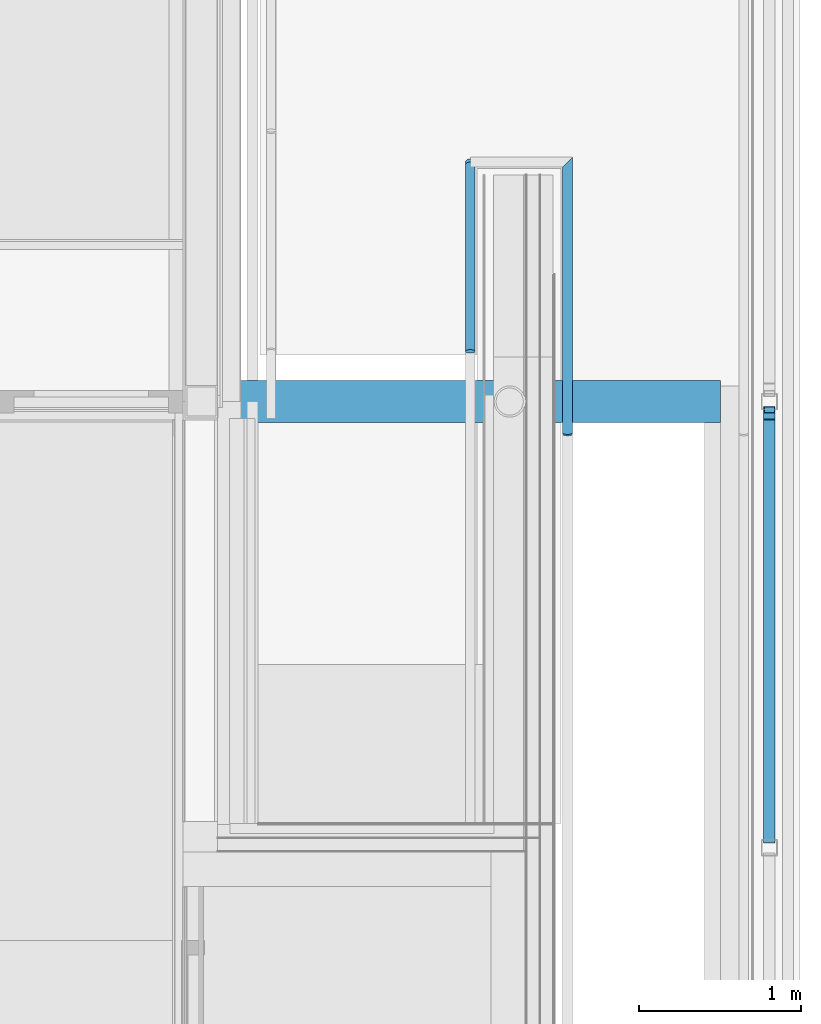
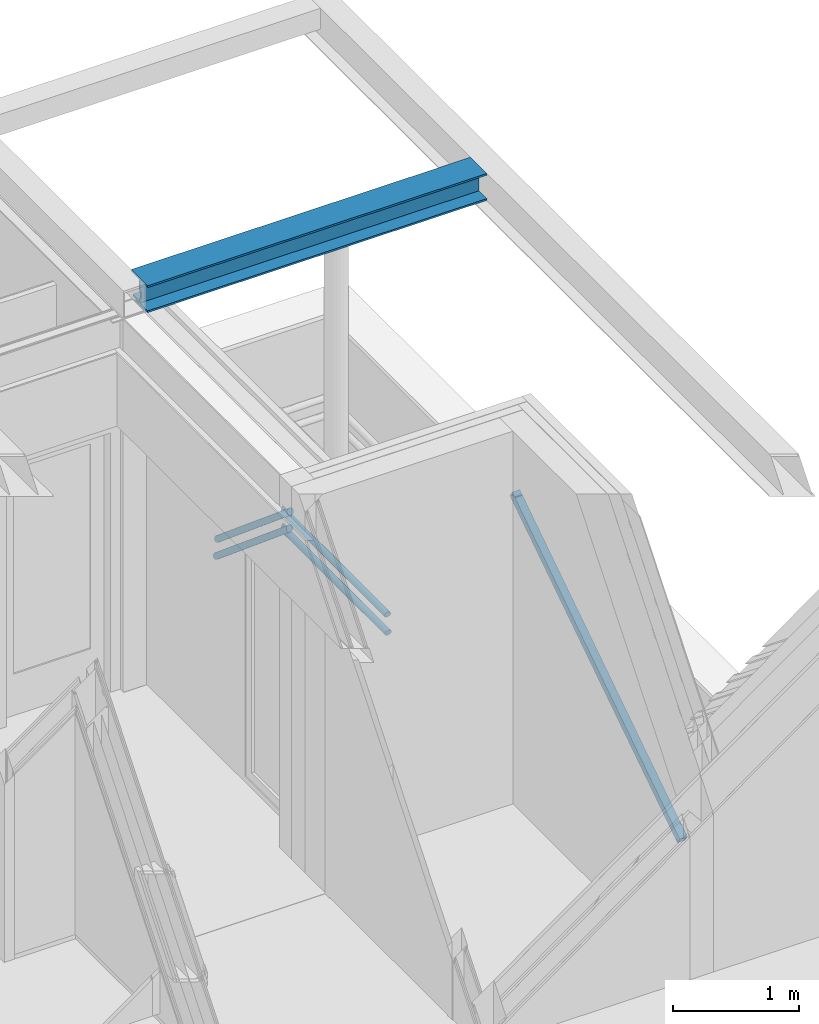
# One storey, part 25 of 137: 4 members, 2 beams, 1 element without a shape of its own.
"""IFC2X3 building model written with IfcOpenShell, lengths in millimetres."""

from ifc_helpers import new_model, entity, si_unit, converted_unit, derived_unit, money_unit, direction, frame, origin_with_axes, place, context, subcontext, project, spatial, faceted_brep, material, type_object, element, aggregate, save


model = new_model("IFC2X3")

# Units and contexts
model_context = context("Model", 3, precision=0.01, world=origin_with_axes(), true_north=direction((0.0, 1.0)))
body_context = subcontext(model_context, "Body", "Model", "MODEL_VIEW")
ifc_project = project(units=[si_unit("LENGTHUNIT", "METRE", prefix="MILLI"), si_unit("AREAUNIT", "SQUARE_METRE"), si_unit("VOLUMEUNIT", "CUBIC_METRE"), converted_unit("PLANEANGLEUNIT", "DEGREE", entity("IfcPlaneAngleMeasure", 0.0174532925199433), si_unit("PLANEANGLEUNIT", "RADIAN"), dimensions=[0, 0, 0, 0, 0, 0, 0]), money_unit("EUR"), converted_unit("TIMEUNIT", "Year", entity("IfcTimeMeasure", 31556926.0), si_unit("TIMEUNIT", "SECOND"), dimensions=[0, 0, 1, 0, 0, 0, 0]), si_unit("MASSUNIT", "GRAM", prefix="KILO"), si_unit("THERMODYNAMICTEMPERATUREUNIT", "DEGREE_CELSIUS"), si_unit("LUMINOUSINTENSITYUNIT", "LUMEN"), si_unit("ENERGYUNIT", "JOULE", prefix="MEGA"), derived_unit("THERMALCONDUCTANCEUNIT", [(si_unit("POWERUNIT", "WATT"), 1), (si_unit("LENGTHUNIT", "METRE"), -1), (si_unit("THERMODYNAMICTEMPERATUREUNIT", "KELVIN"), -1)]), derived_unit("SPECIFICHEATCAPACITYUNIT", [(si_unit("ENERGYUNIT", "JOULE"), 1), (si_unit("MASSUNIT", "GRAM", prefix="KILO"), -1), (si_unit("THERMODYNAMICTEMPERATUREUNIT", "KELVIN"), -1)]), derived_unit("MASSDENSITYUNIT", [(si_unit("MASSUNIT", "GRAM", prefix="KILO"), 1), (si_unit("VOLUMEUNIT", "CUBIC_METRE"), -1)])], contexts=[model_context])

# Site, building, storey
site_placement = place(None, origin_with_axes())
site = spatial("IfcSite", under=ifc_project, at=site_placement, Name="Site", CompositionType="ELEMENT")
building_placement = place(site_placement, origin_with_axes())
building = spatial("IfcBuilding", under=site, at=building_placement, Name="Naam gebouw", CompositionType="ELEMENT")
storey_placement = place(building_placement, frame((0.0, 0.0, 3960.0), z_axis=(0.0, 0.0, 1.0), x_axis=(1.0, 0.0, 0.0)))
storey = spatial("IfcBuildingStorey", under=building, at=storey_placement, Name="1e verdieping", CompositionType="ELEMENT", Elevation=3960.0)

# Beam
ifc_material_1 = material(Name="Metaal - Staal C")
beam_type_1 = type_object("IfcBeamType", Name="HEB260 260 x 260", PredefinedType="BEAM")
beam_1_placement = place(storey_placement, frame((29698.99999955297, 22324.99984707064, 3730.0), z_axis=(0.0, 0.0, 1.0), x_axis=(0.0, 1.0, 0.0)))
element("IfcBeam", 1, at=beam_1_placement, inside=storey, type_object=beam_type_1, material=ifc_material_1, Name="h METAAL_Regenwaterafvoer-x", ObjectType="BEAM", context=body_context, shape_type="Brep", body=[
    faceted_brep([(4.999999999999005, 3097.999999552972, -112.4999999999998), (4.999999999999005, 3097.999999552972, -78.405588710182), (4.999999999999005, 3083.999999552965, -78.405588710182), (4.999999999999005, 3083.999999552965, 6.742424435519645), (4.999999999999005, 3097.999999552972, 6.742424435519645), (4.999999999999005, 3097.999999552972, 112.4999999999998), (4.999999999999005, 0.0, 112.4999999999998), (4.999999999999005, 0.0, -112.4999999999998), (50.9757983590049, 3097.999999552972, -112.4999999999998), (74.57428388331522, 3097.999999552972, -129.9999999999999), (-129.999999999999, 3097.999999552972, -129.9999999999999), (-129.999999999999, 3097.999999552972, -112.4999999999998), (-4.999999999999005, 3097.999999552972, -112.4999999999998), (-4.999999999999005, 3097.999999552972, -70.98985858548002), (-4.999999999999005, 3083.999999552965, -70.98985858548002), (-4.999999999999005, 3083.999999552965, -6.742424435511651), (-4.999999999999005, 3097.999999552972, -6.742424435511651), (-4.999999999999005, 3097.999999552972, 112.4999999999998), (-129.999999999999, 3097.999999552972, 112.4999999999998), (-129.999999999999, 3097.999999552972, 129.9999999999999), (129.999999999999, 3097.999999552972, 129.9999999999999), (129.999999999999, 3097.999999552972, 112.4999999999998), (129.999999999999, 0.0, 112.4999999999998), (129.999999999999, 0.0, 129.9999999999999), (-129.999999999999, 0.0, 129.9999999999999), (-129.999999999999, 0.0, 112.4999999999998), (-4.999999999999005, 0.0, 112.4999999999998), (-4.999999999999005, 0.0, -112.4999999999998), (-129.999999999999, 0.0, -112.4999999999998), (-129.999999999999, 0.0, -129.9999999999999), (129.999999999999, 0.0, -129.9999999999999), (129.999999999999, 0.0, -112.4999999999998), (129.999999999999, 3083.999999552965, -112.4999999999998), (50.9757983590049, 3083.999999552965, -112.4999999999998), (74.57428388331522, 3083.999999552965, -129.9999999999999), (129.999999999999, 3083.999999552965, -129.9999999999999)], [[[0, 1, 2, 3, 4, 5, 6, 7]], [[0, 8, 9, 10, 11, 12, 13, 1]], [[14, 2, 1, 13]], [[15, 3, 2, 14]], [[16, 4, 3, 15]], [[5, 4, 16, 17, 18, 19, 20, 21]], [[22, 6, 5, 21]], [[22, 23, 24, 25, 26, 27, 28, 29, 30, 31, 7, 6]], [[32, 33, 8, 0, 7, 31]], [[33, 34, 9, 8]], [[9, 34, 35, 30, 29, 10]], [[29, 28, 11, 10]], [[28, 27, 12, 11]], [[15, 14, 13, 12, 27, 26, 17, 16]], [[26, 25, 18, 17]], [[25, 24, 19, 18]], [[24, 23, 20, 19]], [[23, 22, 21, 20]], [[30, 35, 32, 31]], [[34, 33, 32, 35]]]),
])

# Railing, members
railing_type = type_object("IfcRailingType", Name="Railing Type", PredefinedType="NOTDEFINED")
railing_placement = place(storey_placement, frame((28276.00002397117, 22221.00039272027, -3419.999916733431), z_axis=(0.0, 0.0, 1.0), x_axis=(1.0, 0.0, 0.0)))
railing = element("IfcRailing", 2, at=railing_placement, inside=storey, type_object=railing_type, Name="34_Reling-x", PredefinedType="NOTDEFINED")
ifc_material_2 = material(Name="Metaal - RVS")
member_type = type_object("IfcMemberType", Name="IfcMember", PredefinedType="USERDEFINED")
member_1_placement = place(railing_placement, frame((-119.0000000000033, 1001.975814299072, 3286.003442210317), z_axis=(0.0, 0.0, 1.0), x_axis=(1.0, 0.0, 0.0)))
member_1 = element("IfcMember", 3, at=member_1_placement, type_object=member_type, material=ifc_material_2, Name="h3 Staal legeringen_", context=body_context, shape_type="Brep", body=[
    faceted_brep([(-30.00000000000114, -588.8924830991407, 1003.996537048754), (-29.54423259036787, -587.0010238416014, 1009.205982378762), (-29.54423259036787, 562.0947378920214, 48.06641071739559), (-30.00000000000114, 558.7524322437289, 44.07049860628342), (-29.54423259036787, -590.7839423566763, 998.7870917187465), (-28.19077862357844, -592.6179305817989, 993.7359327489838), (-25.98076211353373, -594.3387229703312, 988.9965370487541), (-22.98133329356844, -595.8940341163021, 984.7129087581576), (-19.28362829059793, -597.2366066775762, 981.0152037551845), (-15.00000000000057, -598.3256472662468, 978.015774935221), (-10.26060429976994, -599.1280659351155, 975.8057584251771), (-5.209445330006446, -599.619481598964, 974.4523044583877), (0.0, -599.7849628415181, 973.9965370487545), (5.209445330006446, -599.619481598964, 974.4523044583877), (10.26060429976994, -599.1280659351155, 975.8057584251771), (15.00000000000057, -598.3256472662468, 978.015774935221), (19.28362829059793, -597.2366066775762, 981.0152037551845), (22.98133329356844, -595.8940341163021, 984.7129087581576), (25.98076211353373, -594.3387229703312, 988.9965370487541), (28.19077862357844, -592.6179305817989, 993.7359327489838), (29.54423259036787, -590.7839423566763, 998.7870917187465), (30.00000000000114, -588.8924830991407, 1003.996537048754), (29.54423259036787, -587.0010238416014, 1009.205982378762), (28.19077862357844, -585.1670356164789, 1014.257141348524), (25.98076211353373, -583.4462432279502, 1018.996537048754), (22.98133329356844, -581.8909320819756, 1023.28016533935), (19.28362829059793, -580.548359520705, 1026.977870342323), (15.00000000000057, -579.459318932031, 1029.977299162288), (10.26060429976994, -578.6569002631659, 1032.187315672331), (5.209445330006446, -578.1654845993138, 1033.54076963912), (0.0, -578.0000033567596, 1033.996537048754), (-5.209445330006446, -578.1654845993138, 1033.54076963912), (-10.26060429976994, -578.6569002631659, 1032.187315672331), (-15.00000000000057, -579.459318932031, 1029.977299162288), (-19.28362829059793, -580.548359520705, 1026.977870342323), (-22.98133329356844, -581.8909320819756, 1023.28016533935), (-25.98076211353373, -583.4462432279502, 1018.996537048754), (-28.19077862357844, -585.1670356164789, 1014.257141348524), (-28.19077862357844, 565.3354892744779, 51.94090906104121), (-25.98076211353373, 568.3762178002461, 55.5762689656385), (-22.98133329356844, 571.124532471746, 58.86203186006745), (-19.28362829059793, 573.4969271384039, 61.69836150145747), (-15.00000000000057, 575.4213177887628, 63.99907744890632), (-10.26060429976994, 576.8392327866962, 65.69427361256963), (-5.209445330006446, 577.707589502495, 66.73244231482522), (0.0, 578.0000033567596, 67.08203932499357), (5.209445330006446, 577.707589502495, 66.73244231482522), (10.26060429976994, 576.8392327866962, 65.69427361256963), (15.00000000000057, 575.4213177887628, 63.99907744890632), (19.28362829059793, 573.4969271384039, 61.69836150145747), (22.98133329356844, 571.124532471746, 58.86203186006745), (25.98076211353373, 568.3762178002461, 55.5762689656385), (28.19077862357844, 565.3354892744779, 51.94090906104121), (29.54423259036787, 562.0947378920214, 48.06641071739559), (30.00000000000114, 558.7524322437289, 44.07049860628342), (29.54423259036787, 555.4101265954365, 40.07458649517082), (28.19077862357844, 552.16937521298, 36.20008815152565), (25.98076211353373, 549.1286466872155, 32.56472824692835), (22.98133329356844, 546.3803320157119, 29.27896535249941), (19.28362829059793, 544.007937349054, 26.44263571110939), (15.00000000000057, 542.0835466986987, 24.14191976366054), (10.26060429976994, 540.6656317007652, 22.44672359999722), (5.209445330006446, 539.7972749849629, 21.40855489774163), (0.0, 539.5048611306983, 21.05895788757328), (-5.209445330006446, 539.7972749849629, 21.40855489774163), (-10.26060429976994, 540.6656317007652, 22.44672359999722), (-15.00000000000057, 542.0835466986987, 24.14191976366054), (-19.28362829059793, 544.007937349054, 26.44263571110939), (-22.98133329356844, 546.3803320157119, 29.27896535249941), (-25.98076211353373, 549.1286466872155, 32.56472824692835), (-28.19077862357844, 552.16937521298, 36.20008815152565), (-29.54423259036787, 555.4101265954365, 40.07458649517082)], [[[0, 1, 2, 3]], [[0, 4, 5, 6, 7, 8, 9, 10, 11, 12, 13, 14, 15, 16, 17, 18, 19, 20, 21, 22, 23, 24, 25, 26, 27, 28, 29, 30, 31, 32, 33, 34, 35, 36, 37, 1]], [[1, 37, 38, 2]], [[3, 2, 38, 39, 40, 41, 42, 43, 44, 45, 46, 47, 48, 49, 50, 51, 52, 53, 54, 55, 56, 57, 58, 59, 60, 61, 62, 63, 64, 65, 66, 67, 68, 69, 70, 71]], [[4, 0, 3, 71]], [[5, 4, 71, 70]], [[6, 5, 70, 69]], [[7, 6, 69, 68]], [[8, 7, 68, 67]], [[9, 8, 67, 66]], [[10, 9, 66, 65]], [[11, 10, 65, 64]], [[12, 11, 64, 63]], [[13, 12, 63, 62]], [[14, 13, 62, 61]], [[15, 14, 61, 60]], [[16, 15, 60, 59]], [[17, 16, 59, 58]], [[18, 17, 58, 57]], [[19, 18, 57, 56]], [[20, 19, 56, 55]], [[21, 20, 55, 54]], [[22, 21, 54, 53]], [[23, 22, 53, 52]], [[24, 23, 52, 51]], [[25, 24, 51, 50]], [[26, 25, 50, 49]], [[27, 26, 49, 48]], [[28, 27, 48, 47]], [[29, 28, 47, 46]], [[30, 29, 46, 45]], [[31, 30, 45, 44]], [[32, 31, 44, 43]], [[33, 32, 43, 42]], [[34, 33, 42, 41]], [[35, 34, 41, 40]], [[36, 35, 40, 39]], [[37, 36, 39, 38]]]),
])
member_2_placement = place(railing_placement, frame((-119.0000000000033, 1001.975814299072, 3110.659074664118), z_axis=(0.0, 0.0, 1.0), x_axis=(1.0, 0.0, 0.0)))
member_2 = element("IfcMember", 4, at=member_2_placement, type_object=member_type, material=ifc_material_2, Name="h3 Staal legeringen_Regel-x", context=body_context, shape_type="Brep", body=[
    faceted_brep([(-30.00000000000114, -578.0000033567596, 1009.340904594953), (-29.54423259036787, -576.1085440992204, 1014.550349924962), (-29.54423259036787, 581.342309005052, 46.4223189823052), (-30.00000000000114, 578.0000033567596, 42.42640687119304), (-29.54423259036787, -579.8914626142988, 1004.131459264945), (-28.19077862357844, -581.7254508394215, 999.0803002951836), (-25.98076211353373, -583.4462432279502, 994.3409045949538), (-22.98133329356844, -585.0015543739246, 990.0572763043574), (-19.28362829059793, -586.3441269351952, 986.3595713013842), (-15.00000000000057, -587.4331675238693, 983.3601424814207), (-10.26060429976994, -588.2355861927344, 981.1501259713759), (-5.209445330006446, -588.7270018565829, 979.7966720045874), (0.0, -588.8924830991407, 979.3409045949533), (5.209445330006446, -588.7270018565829, 979.7966720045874), (10.26060429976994, -588.2355861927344, 981.1501259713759), (15.00000000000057, -587.4331675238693, 983.3601424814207), (19.28362829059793, -586.3441269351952, 986.3595713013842), (22.98133329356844, -585.0015543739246, 990.0572763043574), (25.98076211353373, -583.4462432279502, 994.3409045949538), (28.19077862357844, -581.7254508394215, 999.0803002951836), (29.54423259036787, -579.8914626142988, 1004.131459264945), (30.00000000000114, -578.0000033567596, 1009.340904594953), (29.54423259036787, -576.1085440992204, 1014.550349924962), (28.19077862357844, -574.2745558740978, 1019.601508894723), (25.98076211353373, -572.5537634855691, 1024.340904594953), (22.98133329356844, -570.9984523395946, 1028.62453288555), (19.28362829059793, -569.655879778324, 1032.322237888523), (15.00000000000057, -568.56683918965, 1035.321666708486), (10.26060429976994, -567.7644205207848, 1037.531683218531), (5.209445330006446, -567.2730048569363, 1038.88513718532), (0.0, -567.1075236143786, 1039.340904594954), (-5.209445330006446, -567.2730048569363, 1038.88513718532), (-10.26060429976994, -567.7644205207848, 1037.531683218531), (-15.00000000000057, -568.56683918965, 1035.321666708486), (-19.28362829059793, -569.655879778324, 1032.322237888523), (-22.98133329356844, -570.9984523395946, 1028.62453288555), (-25.98076211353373, -572.5537634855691, 1024.340904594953), (-28.19077862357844, -574.2745558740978, 1019.601508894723), (-28.19077862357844, 584.5830603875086, 50.29681732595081), (-25.98076211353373, 587.6237889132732, 53.93217723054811), (-22.98133329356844, 590.3721035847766, 57.21794012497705), (-19.28362829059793, 592.7444982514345, 60.05426976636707), (-15.00000000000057, 594.66888890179, 62.35498571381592), (-10.26060429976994, 596.0868038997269, 64.05018187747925), (-5.209445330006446, 596.9551606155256, 65.08835057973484), (0.0, 597.2475744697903, 65.43794758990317), (5.209445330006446, 596.9551606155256, 65.08835057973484), (10.26060429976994, 596.0868038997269, 64.05018187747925), (15.00000000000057, 594.66888890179, 62.35498571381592), (19.28362829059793, 592.7444982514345, 60.05426976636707), (22.98133329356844, 590.3721035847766, 57.21794012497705), (25.98076211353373, 587.6237889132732, 53.93217723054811), (28.19077862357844, 584.5830603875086, 50.29681732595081), (29.54423259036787, 581.342309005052, 46.4223189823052), (30.00000000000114, 578.0000033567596, 42.42640687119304), (29.54423259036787, 574.6576977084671, 38.43049476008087), (28.19077862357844, 571.4169463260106, 34.55599641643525), (25.98076211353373, 568.3762178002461, 30.92063651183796), (22.98133329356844, 565.6279031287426, 27.63487361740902), (19.28362829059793, 563.2555084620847, 24.79854397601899), (15.00000000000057, 561.3311178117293, 22.49782802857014), (10.26060429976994, 559.9132028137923, 20.80263186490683), (5.209445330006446, 559.0448460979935, 19.76446316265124), (0.0, 558.7524322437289, 19.41486615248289), (-5.209445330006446, 559.0448460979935, 19.76446316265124), (-10.26060429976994, 559.9132028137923, 20.80263186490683), (-15.00000000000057, 561.3311178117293, 22.49782802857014), (-19.28362829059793, 563.2555084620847, 24.79854397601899), (-22.98133329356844, 565.6279031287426, 27.63487361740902), (-25.98076211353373, 568.3762178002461, 30.92063651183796), (-28.19077862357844, 571.4169463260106, 34.55599641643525), (-29.54423259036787, 574.6576977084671, 38.43049476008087)], [[[0, 1, 2, 3]], [[0, 4, 5, 6, 7, 8, 9, 10, 11, 12, 13, 14, 15, 16, 17, 18, 19, 20, 21, 22, 23, 24, 25, 26, 27, 28, 29, 30, 31, 32, 33, 34, 35, 36, 37, 1]], [[1, 37, 38, 2]], [[3, 2, 38, 39, 40, 41, 42, 43, 44, 45, 46, 47, 48, 49, 50, 51, 52, 53, 54, 55, 56, 57, 58, 59, 60, 61, 62, 63, 64, 65, 66, 67, 68, 69, 70, 71]], [[4, 0, 3, 71]], [[5, 4, 71, 70]], [[6, 5, 70, 69]], [[7, 6, 69, 68]], [[8, 7, 68, 67]], [[9, 8, 67, 66]], [[10, 9, 66, 65]], [[11, 10, 65, 64]], [[12, 11, 64, 63]], [[13, 12, 63, 62]], [[14, 13, 62, 61]], [[15, 14, 61, 60]], [[16, 15, 60, 59]], [[17, 16, 59, 58]], [[18, 17, 58, 57]], [[19, 18, 57, 56]], [[20, 19, 56, 55]], [[21, 20, 55, 54]], [[22, 21, 54, 53]], [[23, 22, 53, 52]], [[24, 23, 52, 51]], [[25, 24, 51, 50]], [[26, 25, 50, 49]], [[27, 26, 49, 48]], [[28, 27, 48, 47]], [[29, 28, 47, 46]], [[30, 29, 46, 45]], [[31, 30, 45, 44]], [[32, 31, 44, 43]], [[33, 32, 43, 42]], [[34, 33, 42, 41]], [[35, 34, 41, 40]], [[36, 35, 40, 39]], [[37, 36, 39, 38]]]),
])
member_3_placement = place(railing_placement, frame((479.9999999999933, 740.8559098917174, 3352.917939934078), z_axis=(0.0, 0.0, 1.0), x_axis=(1.0, 0.0, 0.0)))
member_3 = element("IfcMember", 5, at=member_3_placement, type_object=member_type, material=ifc_material_2, Name="h3 Staal legeringen_", context=body_context, shape_type="Brep", body=[
    faceted_brep([(30.00000000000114, 869.1199077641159, 37.08203932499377), (29.54423259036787, 868.6641403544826, 42.29148465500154), (29.54423259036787, -831.6139318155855, 42.29148465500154), (30.00000000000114, -830.036638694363, 37.08203932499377), (29.54423259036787, 868.6641403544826, 31.87259399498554), (28.19077862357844, 867.3106863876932, 26.82143502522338), (25.98076211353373, 865.1006698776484, 22.08203932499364), (22.98133329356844, 862.1012410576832, 17.79841103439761), (19.28362829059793, 858.4035360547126, 14.10070603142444), (15.00000000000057, 854.1199077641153, 11.10127721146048), (10.26060429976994, 849.3805120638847, 8.891260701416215), (5.209445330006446, 844.3293530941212, 7.537806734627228), (0.0, 839.1199077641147, 7.082039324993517), (-5.209445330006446, 833.9104624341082, 7.537806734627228), (-10.26060429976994, 828.8593034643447, 8.891260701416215), (-15.00000000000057, 824.1199077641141, 11.10127721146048), (-19.28362829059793, 819.8362794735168, 14.10070603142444), (-22.98133329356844, 816.1385744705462, 17.79841103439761), (-25.98076211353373, 813.139145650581, 22.08203932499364), (-28.19077862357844, 810.9291291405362, 26.82143502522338), (-29.54423259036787, 809.5756751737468, 31.87259399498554), (-30.00000000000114, 809.1199077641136, 37.08203932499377), (-29.54423259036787, 809.5756751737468, 42.29148465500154), (-28.19077862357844, 810.9291291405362, 47.3426436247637), (-25.98076211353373, 813.139145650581, 52.08203932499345), (-22.98133329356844, 816.1385744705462, 56.36566761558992), (-19.28362829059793, 819.8362794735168, 60.06337261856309), (-15.00000000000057, 824.1199077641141, 63.06280143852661), (-10.26060429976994, 828.8593034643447, 65.27281794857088), (-5.209445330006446, 833.9104624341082, 66.62627191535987), (0.0, 839.1199077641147, 67.08203932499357), (5.209445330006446, 844.3293530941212, 66.62627191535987), (10.26060429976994, 849.3805120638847, 65.27281794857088), (15.00000000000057, 854.1199077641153, 63.06280143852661), (19.28362829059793, 858.4035360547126, 60.06337261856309), (22.98133329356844, 862.1012410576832, 56.36566761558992), (25.98076211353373, 865.1006698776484, 52.08203932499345), (28.19077862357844, 867.3106863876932, 47.3426436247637), (28.19077862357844, -833.1432996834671, 47.3426436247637), (25.98076211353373, -834.5782732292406, 52.08203932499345), (22.98133329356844, -835.8752515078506, 56.36566761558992), (19.28362829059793, -836.9948264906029, 60.06337261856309), (15.00000000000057, -837.9029804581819, 63.06280143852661), (10.26060429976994, -838.5721196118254, 65.27281794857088), (5.209445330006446, -838.9819124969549, 66.62627191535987), (0.0, -839.1199077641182, 67.08203932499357), (-5.209445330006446, -838.9819124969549, 66.62627191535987), (-10.26060429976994, -838.5721196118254, 65.27281794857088), (-15.00000000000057, -837.9029804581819, 63.06280143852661), (-19.28362829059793, -836.9948264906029, 60.06337261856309), (-22.98133329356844, -835.8752515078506, 56.36566761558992), (-25.98076211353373, -834.5782732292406, 52.08203932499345), (-28.19077862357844, -833.1432996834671, 47.3426436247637), (-29.54423259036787, -831.6139318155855, 42.29148465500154), (-30.00000000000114, -830.036638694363, 37.08203932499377), (-29.54423259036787, -828.4593455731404, 31.87259399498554), (-28.19077862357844, -826.9299777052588, 26.82143502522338), (-25.98076211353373, -825.4950041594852, 22.08203932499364), (-22.98133329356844, -824.1980258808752, 17.79841103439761), (-19.28362829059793, -823.078450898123, 14.10070603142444), (-15.00000000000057, -822.170296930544, 11.10127721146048), (-10.26060429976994, -821.5011577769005, 8.891260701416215), (-5.209445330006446, -821.091364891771, 7.537806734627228), (0.0, -820.9533696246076, 7.082039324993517), (5.209445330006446, -821.091364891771, 7.537806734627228), (10.26060429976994, -821.5011577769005, 8.891260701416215), (15.00000000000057, -822.170296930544, 11.10127721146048), (19.28362829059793, -823.078450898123, 14.10070603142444), (22.98133329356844, -824.1980258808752, 17.79841103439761), (25.98076211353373, -825.4950041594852, 22.08203932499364), (28.19077862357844, -826.9299777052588, 26.82143502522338), (29.54423259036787, -828.4593455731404, 31.87259399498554)], [[[0, 1, 2, 3]], [[0, 4, 5, 6, 7, 8, 9, 10, 11, 12, 13, 14, 15, 16, 17, 18, 19, 20, 21, 22, 23, 24, 25, 26, 27, 28, 29, 30, 31, 32, 33, 34, 35, 36, 37, 1]], [[1, 37, 38, 2]], [[3, 2, 38, 39, 40, 41, 42, 43, 44, 45, 46, 47, 48, 49, 50, 51, 52, 53, 54, 55, 56, 57, 58, 59, 60, 61, 62, 63, 64, 65, 66, 67, 68, 69, 70, 71]], [[4, 0, 3, 71]], [[5, 4, 71, 70]], [[6, 5, 70, 69]], [[7, 6, 69, 68]], [[8, 7, 68, 67]], [[9, 8, 67, 66]], [[10, 9, 66, 65]], [[11, 10, 65, 64]], [[12, 11, 64, 63]], [[13, 12, 63, 62]], [[14, 13, 62, 61]], [[15, 14, 61, 60]], [[16, 15, 60, 59]], [[17, 16, 59, 58]], [[18, 17, 58, 57]], [[19, 18, 57, 56]], [[20, 19, 56, 55]], [[21, 20, 55, 54]], [[22, 21, 54, 53]], [[23, 22, 53, 52]], [[24, 23, 52, 51]], [[25, 24, 51, 50]], [[26, 25, 50, 49]], [[27, 26, 49, 48]], [[28, 27, 48, 47]], [[29, 28, 47, 46]], [[30, 29, 46, 45]], [[31, 30, 45, 44]], [[32, 31, 44, 43]], [[33, 32, 43, 42]], [[34, 33, 42, 41]], [[35, 34, 41, 40]], [[36, 35, 40, 39]], [[37, 36, 39, 38]]]),
])
member_4_placement = place(railing_placement, frame((479.9999999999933, 740.8559098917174, 3177.573572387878), z_axis=(0.0, 0.0, 1.0), x_axis=(1.0, 0.0, 0.0)))
member_4 = element("IfcMember", 6, at=member_4_placement, type_object=member_type, material=ifc_material_2, Name="h3 Staal legeringen_Regel-x", context=body_context, shape_type="Brep", body=[
    faceted_brep([(30.00000000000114, 869.1199077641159, 42.42640687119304), (29.54423259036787, 868.6641403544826, 47.63585220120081), (29.54423259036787, -840.6972008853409, 47.63585220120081), (30.00000000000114, -839.1199077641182, 42.42640687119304), (29.54423259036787, 868.6641403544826, 37.21696154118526), (28.19077862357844, 867.3106863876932, 32.1658025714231), (25.98076211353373, 865.1006698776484, 27.42640687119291), (22.98133329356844, 862.1012410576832, 23.14277858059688), (19.28362829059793, 858.4035360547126, 19.44507357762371), (15.00000000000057, 854.1199077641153, 16.44564475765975), (10.26060429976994, 849.3805120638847, 14.23562824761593), (5.209445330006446, 844.3293530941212, 12.88217428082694), (0.0, 839.1199077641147, 12.42640687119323), (-5.209445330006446, 833.9104624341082, 12.88217428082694), (-10.26060429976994, 828.8593034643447, 14.23562824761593), (-15.00000000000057, 824.1199077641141, 16.44564475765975), (-19.28362829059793, 819.8362794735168, 19.44507357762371), (-22.98133329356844, 816.1385744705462, 23.14277858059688), (-25.98076211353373, 813.139145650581, 27.42640687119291), (-28.19077862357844, 810.9291291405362, 32.1658025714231), (-29.54423259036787, 809.5756751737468, 37.21696154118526), (-30.00000000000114, 809.1199077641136, 42.42640687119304), (-29.54423259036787, 809.5756751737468, 47.63585220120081), (-28.19077862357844, 810.9291291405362, 52.68701117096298), (-25.98076211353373, 813.139145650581, 57.42640687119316), (-22.98133329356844, 816.1385744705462, 61.71003516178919), (-19.28362829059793, 819.8362794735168, 65.40774016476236), (-15.00000000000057, 824.1199077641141, 68.40716898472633), (-10.26060429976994, 828.8593034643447, 70.61718549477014), (-5.209445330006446, 833.9104624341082, 71.97063946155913), (0.0, 839.1199077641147, 72.42640687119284), (5.209445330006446, 844.3293530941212, 71.97063946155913), (10.26060429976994, 849.3805120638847, 70.61718549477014), (15.00000000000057, 854.1199077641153, 68.40716898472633), (19.28362829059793, 858.4035360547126, 65.40774016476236), (22.98133329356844, 862.1012410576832, 61.71003516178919), (25.98076211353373, 865.1006698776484, 57.42640687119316), (28.19077862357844, 867.3106863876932, 52.68701117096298), (28.19077862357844, -842.2265687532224, 52.68701117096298), (25.98076211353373, -843.661542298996, 57.42640687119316), (22.98133329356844, -844.958520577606, 61.71003516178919), (19.28362829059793, -846.0780955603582, 65.40774016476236), (15.00000000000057, -846.9862495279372, 68.40716898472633), (10.26060429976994, -847.6553886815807, 70.61718549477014), (5.209445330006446, -848.0651815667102, 71.97063946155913), (0.0, -848.2031768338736, 72.42640687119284), (-5.209445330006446, -848.0651815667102, 71.97063946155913), (-10.26060429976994, -847.6553886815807, 70.61718549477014), (-15.00000000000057, -846.9862495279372, 68.40716898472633), (-19.28362829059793, -846.0780955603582, 65.40774016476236), (-22.98133329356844, -844.958520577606, 61.71003516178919), (-25.98076211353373, -843.661542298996, 57.42640687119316), (-28.19077862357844, -842.2265687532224, 52.68701117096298), (-29.54423259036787, -840.6972008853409, 47.63585220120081), (-30.00000000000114, -839.1199077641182, 42.42640687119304), (-29.54423259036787, -837.5426146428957, 37.21696154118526), (-28.19077862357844, -836.0132467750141, 32.1658025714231), (-25.98076211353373, -834.5782732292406, 27.42640687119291), (-22.98133329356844, -833.2812949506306, 23.14277858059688), (-19.28362829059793, -832.1617199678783, 19.44507357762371), (-15.00000000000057, -831.2535660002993, 16.44564475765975), (-10.26060429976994, -830.5844268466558, 14.23562824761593), (-5.209445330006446, -830.1746339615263, 12.88217428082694), (0.0, -830.036638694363, 12.42640687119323), (5.209445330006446, -830.1746339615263, 12.88217428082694), (10.26060429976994, -830.5844268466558, 14.23562824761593), (15.00000000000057, -831.2535660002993, 16.44564475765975), (19.28362829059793, -832.1617199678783, 19.44507357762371), (22.98133329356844, -833.2812949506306, 23.14277858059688), (25.98076211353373, -834.5782732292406, 27.42640687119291), (28.19077862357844, -836.0132467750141, 32.1658025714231), (29.54423259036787, -837.5426146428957, 37.21696154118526)], [[[0, 1, 2, 3]], [[0, 4, 5, 6, 7, 8, 9, 10, 11, 12, 13, 14, 15, 16, 17, 18, 19, 20, 21, 22, 23, 24, 25, 26, 27, 28, 29, 30, 31, 32, 33, 34, 35, 36, 37, 1]], [[1, 37, 38, 2]], [[3, 2, 38, 39, 40, 41, 42, 43, 44, 45, 46, 47, 48, 49, 50, 51, 52, 53, 54, 55, 56, 57, 58, 59, 60, 61, 62, 63, 64, 65, 66, 67, 68, 69, 70, 71]], [[4, 0, 3, 71]], [[5, 4, 71, 70]], [[6, 5, 70, 69]], [[7, 6, 69, 68]], [[8, 7, 68, 67]], [[9, 8, 67, 66]], [[10, 9, 66, 65]], [[11, 10, 65, 64]], [[12, 11, 64, 63]], [[13, 12, 63, 62]], [[14, 13, 62, 61]], [[15, 14, 61, 60]], [[16, 15, 60, 59]], [[17, 16, 59, 58]], [[18, 17, 58, 57]], [[19, 18, 57, 56]], [[20, 19, 56, 55]], [[21, 20, 55, 54]], [[22, 21, 54, 53]], [[23, 22, 53, 52]], [[24, 23, 52, 51]], [[25, 24, 51, 50]], [[26, 25, 50, 49]], [[27, 26, 49, 48]], [[28, 27, 48, 47]], [[29, 28, 47, 46]], [[30, 29, 46, 45]], [[31, 30, 45, 44]], [[32, 31, 44, 43]], [[33, 32, 43, 42]], [[34, 33, 42, 41]], [[35, 34, 41, 40]], [[36, 35, 40, 39]], [[37, 36, 39, 38]]]),
])
aggregate(railing, [member_1, member_2, member_3, member_4])

# Beam
beam_type_2 = type_object("IfcBeamType", Name="70x70x5 70 x 70", PredefinedType="BEAM")
beam_2_placement = place(storey_placement, frame((30000.00000000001, 19624.99984707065, -1120.00000000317), z_axis=(0.0, 0.0, 1.0), x_axis=(1.0, 0.0, 0.0)))
element("IfcBeam", 7, at=beam_2_placement, inside=storey, type_object=beam_type_2, material=ifc_material_1, Name="h METAAL_Regenwaterafvoer-x", ObjectType="BEAM", context=body_context, shape_type="Brep", body=[
    faceted_brep([(-35.00000000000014, 19.24873161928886, -29.23159816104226), (-35.00000000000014, 56.04745406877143, -4.999986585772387), (35.00000000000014, 56.04745406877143, -4.999986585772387), (35.00000000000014, 19.24873161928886, -29.23159816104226), (-35.00000000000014, 3.292443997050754, -4.999986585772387), (30.00000000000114, 3.292443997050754, -4.999986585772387), (35.00000000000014, 3.292443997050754, -4.999986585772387), (-30.00000000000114, 3.292443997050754, -4.999986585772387), (-29.99999999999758, 46.95594593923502, -4.999986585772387), (30.00000000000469, 46.95594593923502, -4.999986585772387), (-30.00000000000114, 16.49891281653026, -25.05565556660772), (30.00000000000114, 16.49891281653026, -25.05565556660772)], [[[0, 1, 2, 3]], [[0, 4, 1]], [[5, 6, 2, 1, 4, 7, 8, 9]], [[3, 2, 6]], [[10, 7, 4, 0, 3, 6, 5, 11]], [[10, 8, 7]], [[11, 9, 8, 10]], [[11, 5, 9]]]),
    faceted_brep([(35.00000000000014, -19.24873161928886, 29.23159816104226), (35.00000000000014, -8.833143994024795e-06, 1.341422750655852e-05), (35.00000000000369, 63.64057727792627, 1.341422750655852e-05), (35.00000000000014, 2669.248731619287, 1715.768401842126), (35.00000000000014, 2649.999999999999, 1745.00000000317), (35.00000000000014, 2586.359443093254, 1745.00000000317), (30.00000000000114, -16.49891281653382, 25.05565556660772), (30.00000000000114, -8.833143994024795e-06, 1.341422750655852e-05), (-35.00000000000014, -19.24873161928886, 29.23159816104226), (-35.00000000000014, -8.833143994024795e-06, 1.341422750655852e-05), (-30.00000000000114, -8.833143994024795e-06, 1.341422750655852e-05), (-30.00000000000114, -16.49891281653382, 25.05565556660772), (-34.99999999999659, 63.64057727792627, 1.341422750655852e-05), (30.00000000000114, 54.54906914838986, 1.341422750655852e-05), (-30.00000000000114, 54.54906914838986, 1.341422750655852e-05), (-35.00000000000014, 2669.248731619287, 1715.768401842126), (-35.00000000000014, 2649.999999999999, 1745.00000000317), (-30.00000000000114, 2649.999999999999, 1745.00000000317), (-30.00000000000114, 2666.498912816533, 1719.94434443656), (29.99999999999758, 2666.498912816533, 1719.94434443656), (29.99999999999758, 2649.999999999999, 1745.00000000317), (-35.00000000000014, 2586.359443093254, 1745.00000000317), (30.00000000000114, 2595.450951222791, 1745.00000000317), (-30.00000000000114, 2595.450951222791, 1745.00000000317)], [[[0, 1, 2, 3, 4, 5]], [[6, 7, 1, 0, 8, 9, 10, 11]], [[9, 12, 2, 1, 7, 13, 14, 10]], [[3, 2, 12, 15]], [[3, 15, 16, 17, 18, 19, 20, 4]], [[16, 21, 5, 4, 20, 22, 23, 17]], [[8, 0, 5, 21]], [[19, 13, 7, 6, 22, 20]], [[15, 12, 9, 8, 21, 16]], [[11, 10, 14, 18, 17, 23]], [[6, 11, 23, 22]], [[18, 14, 13, 19]]]),
    faceted_brep([(35.00000000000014, 2630.751268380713, 1774.23159816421), (35.00000000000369, 2593.952566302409, 1750.00000000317), (35.00000000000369, 2646.707547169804, 1750.00000000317), (-35.00000000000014, 2630.751268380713, 1774.23159816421), (-34.99999999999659, 2593.952566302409, 1750.00000000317), (30.00000000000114, 2603.044074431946, 1750.00000000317), (30.00000000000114, 2646.707547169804, 1750.00000000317), (-34.99999999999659, 2646.707547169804, 1750.00000000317), (-29.99999999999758, 2646.707547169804, 1750.00000000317), (-30.00000000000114, 2603.044074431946, 1750.00000000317), (-30.00000000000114, 2633.501087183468, 1770.055655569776), (30.00000000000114, 2633.501087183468, 1770.055655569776)], [[[0, 1, 2]], [[3, 4, 1, 0]], [[5, 6, 2, 1, 4, 7, 8, 9]], [[10, 8, 7, 3, 0, 2, 6, 11]], [[3, 7, 4]], [[11, 6, 5]], [[10, 9, 8]], [[11, 5, 9, 10]]]),
])

save(model, "model.ifc")
